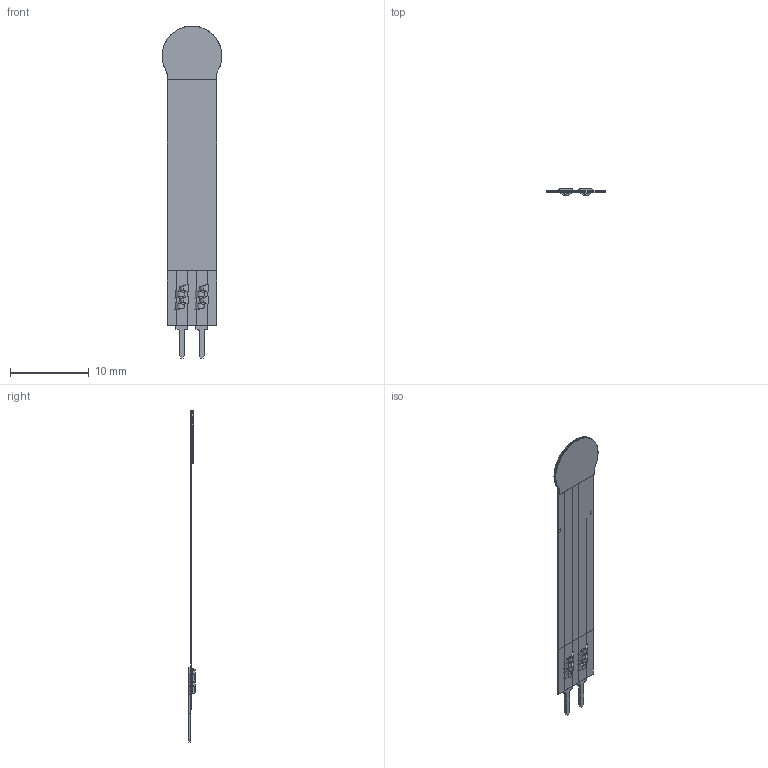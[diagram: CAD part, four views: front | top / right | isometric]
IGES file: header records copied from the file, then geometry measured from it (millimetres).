
Start section: SolidWorks IGES file using analytic representation for surfaces
Global section: file name: C:\Documents and Settings\jleonard\Desktop\34-00007-FSR 400.IGS; native system: SolidWorks 2008; preprocessor: SolidWorks 2008; author: jleonard; date: 110909.152216; units: millimetre
Bounding box: 7.62 x 0.85 x 42.28 mm (x, y, z)
Surface area: 1387.5 mm2 (no closed solid volume)
Topology: 0 solids, 0 shells, 322 faces, 1816 edges, 1816 vertices
Faces by surface type: bspline 250, revolution 72
